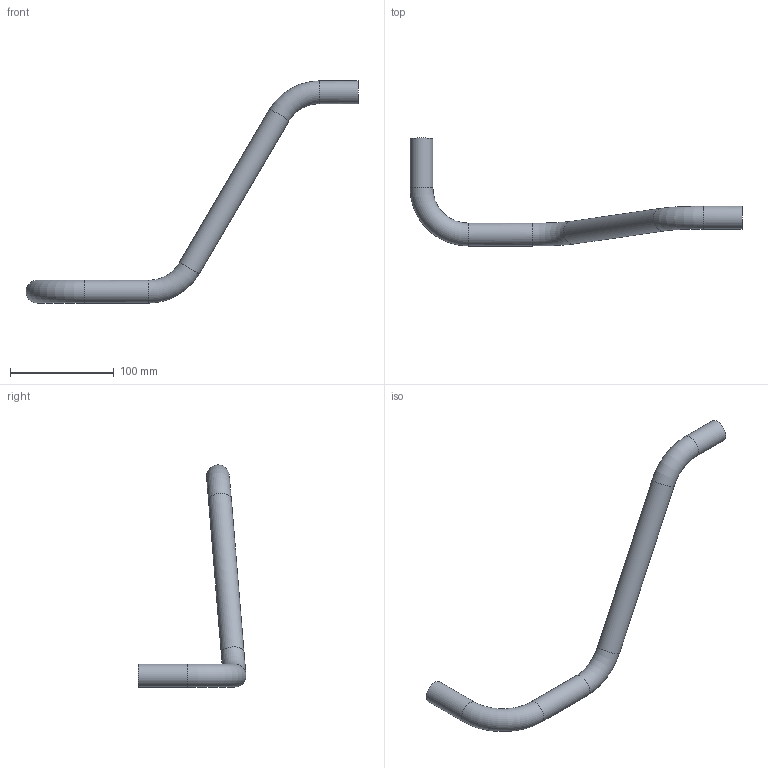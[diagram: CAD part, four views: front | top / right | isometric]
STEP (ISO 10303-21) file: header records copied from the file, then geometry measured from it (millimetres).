
FILE_DESCRIPTION(/* description */ ('Vilces dzinēja dzesēšanas caurule D22x1.5'),/* implementation_level */ '2;1');
FILE_NAME(/* name */ '0915080153.stp',/* time_stamp */ '2026-05-11T09:28:40+03:00',/* author */ ('Ainars.Rocis'),/* organization */ ('none'),/* preprocessor_version */ 'ST-DEVELOPER v20.1',/* originating_system */ 'Autodesk Inventor 2026',/* authorisation */ 'none');
FILE_SCHEMA (('AUTOMOTIVE_DESIGN { 1 0 10303 214 3 1 1 }'));
Length unit declared in the file: millimetre
Products named in the file (1): 0915080153
Bounding box: 319.75 x 104 x 214 mm (x, y, z)
Volume: 46700.1 mm3; surface area: 62459.9 mm2
Topology: 1 solids, 1 shells, 16 faces, 42 edges, 28 vertices
Faces by surface type: cylinder 8, torus 6, plane 2
Full cylindrical faces by diameter (mm): 19 x4, 22 x4
Entity records: 576 total; most frequent: DIRECTION 110, CARTESIAN_POINT 87, ORIENTED_EDGE 84, AXIS2_PLACEMENT_3D 51, EDGE_CURVE 42, CIRCLE 34, VERTEX_POINT 28, EDGE_LOOP 18
